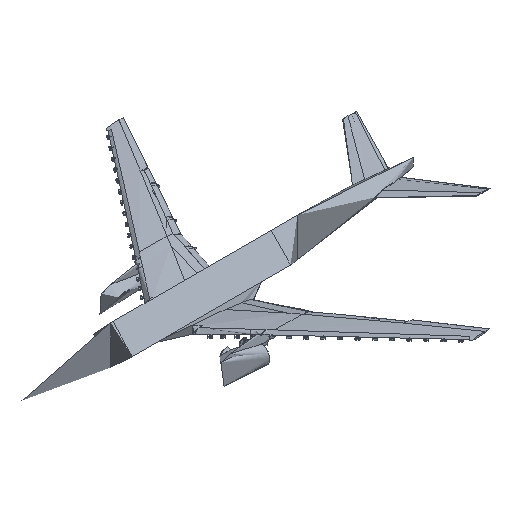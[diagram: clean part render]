
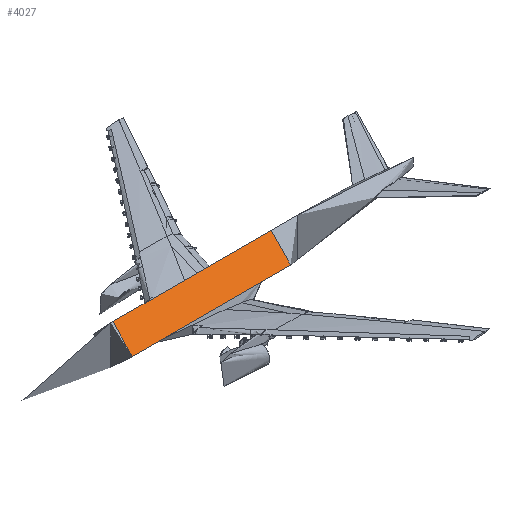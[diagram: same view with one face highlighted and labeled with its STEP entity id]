
A CAD part, isometric view. The second image highlights one B-rep face of the part: STEP entity #4027.
In plain terms, the highlighted free-form (B-spline) face has degree [3, 1] with [11, 2] control points.
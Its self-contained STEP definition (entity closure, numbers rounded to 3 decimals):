
#2390=FACE_OUTER_BOUND('',#6220,.T.);
#4027=ADVANCED_FACE('',(#2390),#5694,.F.);
#5694=B_SPLINE_SURFACE_WITH_KNOTS('',3,1,((#61041,#61042),(#61043,#61044),
(#61045,#61046),(#61047,#61048),(#61049,#61050),(#61051,#61052),(#61053,
#61054),(#61055,#61056),(#61057,#61058),(#61059,#61060),(#61061,#61062)),
 .UNSPECIFIED.,.F.,.F.,.F.,(4,1,1,1,1,1,1,1,4),(2,2),(0.,0.006,
0.124,0.243,0.48,0.717,
0.855,0.994,1.),(0.,1.),.UNSPECIFIED.);
#6220=EDGE_LOOP('',(#11281,#11282,#11283,#11284));
#11281=ORIENTED_EDGE('',*,*,#23106,.F.);
#11282=ORIENTED_EDGE('',*,*,#23112,.F.);
#11283=ORIENTED_EDGE('',*,*,#23113,.T.);
#11284=ORIENTED_EDGE('',*,*,#23109,.F.);
#20229=VERTEX_POINT('',#60946);
#20230=VERTEX_POINT('',#60953);
#20231=VERTEX_POINT('',#60998);
#20233=VERTEX_POINT('',#61034);
#23106=EDGE_CURVE('',#20229,#20230,#27585,.T.);
#23109=EDGE_CURVE('',#20230,#20231,#27588,.T.);
#23112=EDGE_CURVE('',#20233,#20229,#27591,.T.);
#23113=EDGE_CURVE('',#20233,#20231,#27592,.T.);
#27585=B_SPLINE_CURVE_WITH_KNOTS('',3,(#60947,#60948,#60949,#60950,#60951,
#60952),.UNSPECIFIED.,.F.,.F.,(4,2,4),(0.,0.5,1.),.UNSPECIFIED.);
#27588=B_SPLINE_CURVE_WITH_KNOTS('',3,(#60994,#60995,#60996,#60997),
 .UNSPECIFIED.,.F.,.F.,(4,4),(0.,1.),.UNSPECIFIED.);
#27591=B_SPLINE_CURVE_WITH_KNOTS('',3,(#61030,#61031,#61032,#61033),
 .UNSPECIFIED.,.F.,.F.,(4,4),(0.,1.),.UNSPECIFIED.);
#27592=B_SPLINE_CURVE_WITH_KNOTS('',3,(#61035,#61036,#61037,#61038,#61039,
#61040),.UNSPECIFIED.,.F.,.F.,(4,2,4),(0.,0.5,1.),.UNSPECIFIED.);
#60946=CARTESIAN_POINT('',(45.,0.,9.265));
#60947=CARTESIAN_POINT('',(45.001,0.,9.265));
#60948=CARTESIAN_POINT('',(45.001,-0.934,9.255));
#60949=CARTESIAN_POINT('',(45.001,-1.791,8.877));
#60950=CARTESIAN_POINT('',(45.001,-3.021,7.564));
#60951=CARTESIAN_POINT('',(45.001,-3.348,6.647));
#60952=CARTESIAN_POINT('',(45.001,-3.287,5.75));
#60953=CARTESIAN_POINT('',(45.001,-3.287,5.75));
#60994=CARTESIAN_POINT('',(45.,-3.287,5.75));
#60995=CARTESIAN_POINT('',(36.,-3.287,5.75));
#60996=CARTESIAN_POINT('',(27.,-3.287,5.75));
#60997=CARTESIAN_POINT('',(18.,-3.287,5.75));
#60998=CARTESIAN_POINT('',(18.,-3.287,5.75));
#61030=CARTESIAN_POINT('',(18.,0.,9.265));
#61031=CARTESIAN_POINT('',(27.,0.,9.265));
#61032=CARTESIAN_POINT('',(36.,0.,9.265));
#61033=CARTESIAN_POINT('',(45.,0.,9.265));
#61034=CARTESIAN_POINT('',(18.,0.,9.265));
#61035=CARTESIAN_POINT('',(18.,0.,9.265));
#61036=CARTESIAN_POINT('',(18.,-0.934,9.255));
#61037=CARTESIAN_POINT('',(18.,-1.791,8.877));
#61038=CARTESIAN_POINT('',(18.,-3.021,7.564));
#61039=CARTESIAN_POINT('',(18.,-3.348,6.647));
#61040=CARTESIAN_POINT('',(18.,-3.287,5.75));
#61041=CARTESIAN_POINT('',(45.162,0.034,9.265));
#61042=CARTESIAN_POINT('',(17.838,0.034,9.265));
#61043=CARTESIAN_POINT('',(45.162,0.022,9.265));
#61044=CARTESIAN_POINT('',(17.838,0.022,9.265));
#61045=CARTESIAN_POINT('',(45.162,-0.213,9.264));
#61046=CARTESIAN_POINT('',(17.838,-0.213,9.264));
#61047=CARTESIAN_POINT('',(45.162,-0.651,9.223));
#61048=CARTESIAN_POINT('',(17.838,-0.651,9.223));
#61049=CARTESIAN_POINT('',(45.162,-1.473,8.97));
#61050=CARTESIAN_POINT('',(17.838,-1.473,8.97));
#61051=CARTESIAN_POINT('',(45.162,-2.391,8.361));
#61052=CARTESIAN_POINT('',(17.838,-2.391,8.361));
#61053=CARTESIAN_POINT('',(45.162,-3.021,7.416));
#61054=CARTESIAN_POINT('',(17.838,-3.021,7.416));
#61055=CARTESIAN_POINT('',(45.162,-3.279,6.509));
#61056=CARTESIAN_POINT('',(17.838,-3.279,6.509));
#61057=CARTESIAN_POINT('',(45.162,-3.304,5.991));
#61058=CARTESIAN_POINT('',(17.838,-3.304,5.991));
#61059=CARTESIAN_POINT('',(45.162,-3.285,5.728));
#61060=CARTESIAN_POINT('',(17.838,-3.285,5.728));
#61061=CARTESIAN_POINT('',(45.162,-3.285,5.718));
#61062=CARTESIAN_POINT('',(17.838,-3.285,5.718));
